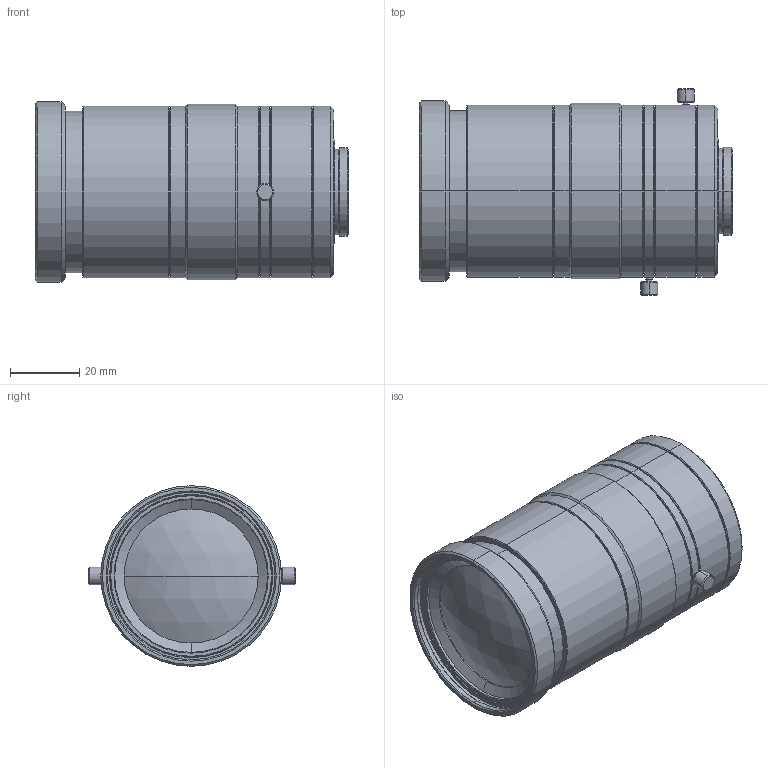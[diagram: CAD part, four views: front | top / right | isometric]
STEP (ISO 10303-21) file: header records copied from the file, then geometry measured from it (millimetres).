
FILE_DESCRIPTION (( 'STEP AP203' ), '1' );
FILE_NAME ('VS-LLD15.STEP', '2017-11-16T01:02:34', ( 'miura_vst' ), ( '' ), 'SwSTEP 2.0', 'SolidWorks 2017', '' );
FILE_SCHEMA (( 'CONFIG_CONTROL_DESIGN' ));
Length unit declared in the file: millimetre
Products named in the file (1): VS-LLD15
Bounding box: 90.1 x 59.5 x 52 mm (x, y, z)
Volume: 159341.7 mm3; surface area: 21836.9 mm2
Topology: 1 solids, 1 shells, 159 faces, 320 edges, 186 vertices
Faces by surface type: cone 80, cylinder 52, plane 23, sphere 4
Entity records: 4255 total; most frequent: DIRECTION 820, CARTESIAN_POINT 730, ORIENTED_EDGE 640, AXIS2_PLACEMENT_3D 344, EDGE_CURVE 320, VERTEX_POINT 186, CIRCLE 184, EDGE_LOOP 182
